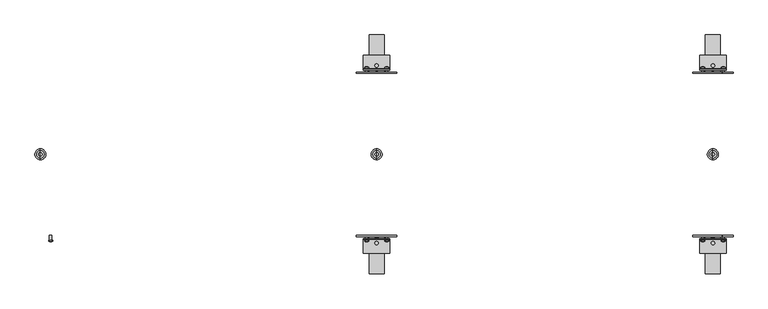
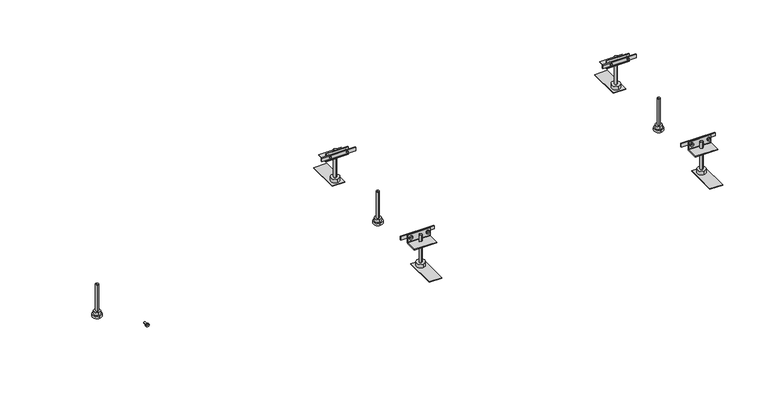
"""IFC4 building model written with IfcOpenShell, lengths in millimetres: proxy geometry, Electrical_Installation_Hager_BKW-Trunking-System-With-Trunking-Bottom-For-Dry-Cleaned-Floors : Nominal Size 400  Length 2.4 m."""

from ifc_helpers import new_model, si_unit, point, frame, frame_2d, origin, place, context, project, spatial, polyline, circle_curve, ellipse_curve, trimmed, segment, composite_curve, outline, extrude, source, transform, mapped, element, save
from ifc_brep_helpers import plane_surface, cylinder_surface, revolved_surface, advanced_brep


def electrical_fixtures_a64f4c61(model_context):
    return source(origin(), model_context, "Body", "SolidModel", [
        advanced_brep(
        [(1600.0, 13.0, -85.5), (1600.0, -13.0, -85.5), (1600.0, 0.0, -85.5), (1600.0, 13.0, -79.5), (1600.0, -13.0, -79.5), (1600.0, 9.0, -79.5), (1600.0, -9.0, -79.5), (1600.0, 9.0, -70.5), (1600.0, -9.0, -70.5), (1600.0, 3.954744, -70.5), (1600.0, -3.954744, -70.5), (1600.0, 3.954744, 9.5), (1600.0, -3.954744, 9.5), (1600.0, 0.0, 9.5)],
        [
            (0, 1, circle_curve(frame((1600.0, 0.0, -85.5), z_axis=(0.0, 0.0, -1.0), x_axis=(0.0, -1.0, 0.0)), 13.0)),
            (1, 2),
            (2, 0),
            (1, 0, circle_curve(frame((1600.0, 0.0, -85.5), z_axis=(0.0, 0.0, -1.0), x_axis=(0.0, -1.0, 0.0)), 13.0)),
            (3, 4, circle_curve(frame((1600.0, 0.0, -79.5), z_axis=(0.0, 0.0, -1.0), x_axis=(0.0, -1.0, 0.0)), 13.0)),
            (4, 1),
            (0, 3),
            (4, 3, circle_curve(frame((1600.0, 0.0, -79.5), z_axis=(0.0, 0.0, -1.0), x_axis=(0.0, -1.0, 0.0)), 13.0)),
            (5, 6, circle_curve(frame((1600.0, 0.0, -79.5), z_axis=(0.0, 0.0, -1.0), x_axis=(0.0, -1.0, 0.0)), 9.0)),
            (6, 4),
            (3, 5),
            (6, 5, circle_curve(frame((1600.0, 0.0, -79.5), z_axis=(0.0, 0.0, -1.0), x_axis=(0.0, -1.0, 0.0)), 9.0)),
            (7, 8, circle_curve(frame((1600.0, 0.0, -70.5), z_axis=(0.0, 0.0, -1.0), x_axis=(0.0, -1.0, 0.0)), 9.0)),
            (8, 6),
            (5, 7),
            (8, 7, circle_curve(frame((1600.0, 0.0, -70.5), z_axis=(0.0, 0.0, -1.0), x_axis=(0.0, -1.0, 0.0)), 9.0)),
            (9, 10, circle_curve(frame((1600.0, 0.0, -70.5), z_axis=(0.0, 0.0, -1.0), x_axis=(0.0, -1.0, 0.0)), 3.954744)),
            (10, 8),
            (7, 9),
            (10, 9, circle_curve(frame((1600.0, 0.0, -70.5), z_axis=(0.0, 0.0, -1.0), x_axis=(0.0, -1.0, 0.0)), 3.954744)),
            (11, 12, circle_curve(frame((1600.0, 0.0, 9.5), z_axis=(0.0, 0.0, -1.0), x_axis=(0.0, -1.0, 0.0)), 3.954744)),
            (12, 10),
            (9, 11),
            (12, 11, circle_curve(frame((1600.0, 0.0, 9.5), z_axis=(0.0, 0.0, -1.0), x_axis=(0.0, -1.0, 0.0)), 3.954744)),
            (13, 12),
            (11, 13),
        ],
        [
            plane_surface(frame((1600.0, 0.0, -85.5), z_axis=(0.0, 0.0, -1.0), x_axis=(0.0, -1.0, 0.0))),
            cylinder_surface(frame((1600.0, 0.0, 7.0), z_axis=(0.0, 0.0, 1.0), x_axis=(0.0, -1.0, 0.0)), 13.0),
            plane_surface(frame((1600.0, 0.0, -79.5), z_axis=(0.0, 0.0, 1.0), x_axis=(0.0, -1.0, 0.0))),
            cylinder_surface(frame((1600.0, 0.0, 7.0), z_axis=(0.0, 0.0, 1.0), x_axis=(0.0, -1.0, 0.0)), 9.0),
            plane_surface(frame((1600.0, 0.0, -70.5), z_axis=(0.0, 0.0, 1.0), x_axis=(0.0, -1.0, 0.0))),
            cylinder_surface(frame((1600.0, 0.0, 7.0), z_axis=(0.0, 0.0, 1.0), x_axis=(0.0, -1.0, 0.0)), 3.954744),
            plane_surface(frame((1600.0, 0.0, 9.5), z_axis=(0.0, 0.0, 1.0), x_axis=(0.0, -1.0, 0.0))),
        ],
        [
            (0, [[1, 2, 3]]),
            (0, [[4, -3, -2]]),
            (1, [[5, 6, -1, 7]]),
            (1, [[8, -7, -4, -6]]),
            (2, [[9, 10, -5, 11]]),
            (2, [[12, -11, -8, -10]]),
            (3, [[13, 14, -9, 15]]),
            (3, [[16, -15, -12, -14]]),
            (4, [[17, 18, -13, 19]]),
            (4, [[20, -19, -16, -18]]),
            (5, [[21, 22, -17, 23]]),
            (5, [[24, -23, -20, -22]]),
            (6, [[25, -21, 26]]),
            (6, [[-26, -24, -25]]),
        ],
    ),
        advanced_brep(
        [(1629.0575247, -206.6418922, 2.5), (1619.4769168, -206.6418922, 2.5), (1619.4769168, -204.7, 2.5), (1629.0575247, -204.7, 2.5), (1621.7042517, -204.7, 2.5), (1626.8301898, -204.7, 2.5), (1621.7042517, -192.7, 2.5), (1626.8301898, -192.7, 2.5), (1624.2672208, -192.7, 2.5), (1624.2672208, -208.3479209, 2.5)],
        [
            (0, 1, circle_curve(frame((1624.2672208, -206.6418922, 2.5), z_axis=(0.0, 1.0, 0.0), x_axis=(-1.0, 0.0, 0.0)), 4.790304)),
            (1, 2),
            (2, 3, circle_curve(frame((1624.2672208, -204.7, 2.5), z_axis=(0.0, -1.0, 0.0), x_axis=(-1.0, 0.0, 0.0)), 4.790304)),
            (3, 0),
            (1, 0, circle_curve(frame((1624.2672208, -206.6418922, 2.5), z_axis=(0.0, 1.0, 0.0), x_axis=(-1.0, 0.0, 0.0)), 4.790304)),
            (3, 2, circle_curve(frame((1624.2672208, -204.7, 2.5), z_axis=(0.0, -1.0, 0.0), x_axis=(-1.0, 0.0, 0.0)), 4.790304)),
            (2, 4),
            (4, 5, circle_curve(frame((1624.2672208, -204.7, 2.5), z_axis=(0.0, -1.0, 0.0), x_axis=(-1.0, 0.0, 0.0)), 2.562969)),
            (5, 3),
            (5, 4, circle_curve(frame((1624.2672208, -204.7, 2.5), z_axis=(0.0, -1.0, 0.0), x_axis=(-1.0, 0.0, 0.0)), 2.562969)),
            (4, 6),
            (6, 7, circle_curve(frame((1624.2672208, -192.7, 2.5), z_axis=(0.0, -1.0, 0.0), x_axis=(-1.0, 0.0, 0.0)), 2.562969)),
            (7, 5),
            (7, 6, circle_curve(frame((1624.2672208, -192.7, 2.5), z_axis=(0.0, -1.0, 0.0), x_axis=(-1.0, 0.0, 0.0)), 2.562969)),
            (6, 8),
            (8, 7),
            (9, 1, circle_curve(frame((1624.2353142, -200.8592246, 2.5), z_axis=(0.0, 0.0, -1.0), x_axis=(-1.0, 0.0, 0.0)), 7.4887643)),
            (0, 9, circle_curve(frame((1624.2991274, -200.8592246, 2.5), z_axis=(0.0, 0.0, -1.0), x_axis=(1.0, 0.0, 0.0)), 7.4887643)),
        ],
        [
            cylinder_surface(frame((1624.2672208, -204.2950786, 2.5), z_axis=(0.0, -1.0, 0.0), x_axis=(-1.0, 0.0, 0.0)), 4.790304),
            plane_surface(frame((1624.2672208, -204.7, 2.5), z_axis=(0.0, 1.0, 0.0), x_axis=(-1.0, 0.0, 0.0))),
            cylinder_surface(frame((1624.2672208, -204.2950786, 2.5), z_axis=(0.0, -1.0, 0.0), x_axis=(-1.0, 0.0, 0.0)), 2.562969),
            plane_surface(frame((1624.2672208, -192.7, 2.5), z_axis=(0.0, 1.0, 0.0), x_axis=(-1.0, 0.0, 0.0))),
            revolved_surface(trimmed(ellipse_curve(frame((1624.2353142, -200.8592246, 2.5), z_axis=(0.0, 0.0, 1.0), x_axis=(-1.0, 0.0, 0.0)), 7.4887643, 7.4887643), [point((1619.4769168, -206.6418922, 2.5))], [point((1624.2672208, -208.3479209, 2.5))], True, "CARTESIAN"), (1624.2672208, -204.2950786, 2.5), (0.0, -1.0, 0.0)),
        ],
        [
            (0, [[1, 2, 3, 4]]),
            (0, [[5, -4, 6, -2]]),
            (1, [[-3, 7, 8, 9]]),
            (1, [[-6, -9, 10, -7]]),
            (2, [[-8, 11, 12, 13]]),
            (2, [[-10, -13, 14, -11]]),
            (3, [[-12, 15, 16]]),
            (3, [[-14, -16, -15]]),
            (4, [[17, -1, 18]]),
            (4, [[-18, -5, -17]]),
        ],
    ),
        advanced_brep(
        [(1580.790304, -206.6418922, 2.5), (1571.209696, -206.6418922, 2.5), (1571.209696, -204.7, 2.5), (1580.790304, -204.7, 2.5), (1573.437031, -204.7, 2.5), (1578.562969, -204.7, 2.5), (1573.437031, -192.7, 2.5), (1578.562969, -192.7, 2.5), (1576.0, -192.7, 2.5), (1576.0, -208.3479209, 2.5)],
        [
            (0, 1, circle_curve(frame((1576.0, -206.6418922, 2.5), z_axis=(0.0, 1.0, 0.0), x_axis=(-1.0, 0.0, 0.0)), 4.790304)),
            (1, 2),
            (2, 3, circle_curve(frame((1576.0, -204.7, 2.5), z_axis=(0.0, -1.0, 0.0), x_axis=(-1.0, 0.0, 0.0)), 4.790304)),
            (3, 0),
            (1, 0, circle_curve(frame((1576.0, -206.6418922, 2.5), z_axis=(0.0, 1.0, 0.0), x_axis=(-1.0, 0.0, 0.0)), 4.790304)),
            (3, 2, circle_curve(frame((1576.0, -204.7, 2.5), z_axis=(0.0, -1.0, 0.0), x_axis=(-1.0, 0.0, 0.0)), 4.790304)),
            (2, 4),
            (4, 5, circle_curve(frame((1576.0, -204.7, 2.5), z_axis=(0.0, -1.0, 0.0), x_axis=(-1.0, 0.0, 0.0)), 2.562969)),
            (5, 3),
            (5, 4, circle_curve(frame((1576.0, -204.7, 2.5), z_axis=(0.0, -1.0, 0.0), x_axis=(-1.0, 0.0, 0.0)), 2.562969)),
            (4, 6),
            (6, 7, circle_curve(frame((1576.0, -192.7, 2.5), z_axis=(0.0, -1.0, 0.0), x_axis=(-1.0, 0.0, 0.0)), 2.562969)),
            (7, 5),
            (7, 6, circle_curve(frame((1576.0, -192.7, 2.5), z_axis=(0.0, -1.0, 0.0), x_axis=(-1.0, 0.0, 0.0)), 2.562969)),
            (6, 8),
            (8, 7),
            (9, 1, circle_curve(frame((1575.9680934, -200.8592246, 2.5), z_axis=(0.0, 0.0, -1.0), x_axis=(-1.0, 0.0, 0.0)), 7.4887643)),
            (0, 9, circle_curve(frame((1576.0319066, -200.8592246, 2.5), z_axis=(0.0, 0.0, -1.0), x_axis=(1.0, 0.0, 0.0)), 7.4887643)),
        ],
        [
            cylinder_surface(frame((1576.0, -204.2950786, 2.5), z_axis=(0.0, -1.0, 0.0), x_axis=(-1.0, 0.0, 0.0)), 4.790304),
            plane_surface(frame((1576.0, -204.7, 2.5), z_axis=(0.0, 1.0, 0.0), x_axis=(-1.0, 0.0, 0.0))),
            cylinder_surface(frame((1576.0, -204.2950786, 2.5), z_axis=(0.0, -1.0, 0.0), x_axis=(-1.0, 0.0, 0.0)), 2.562969),
            plane_surface(frame((1576.0, -192.7, 2.5), z_axis=(0.0, 1.0, 0.0), x_axis=(-1.0, 0.0, 0.0))),
            revolved_surface(trimmed(ellipse_curve(frame((1575.9680934, -200.8592246, 2.5), z_axis=(0.0, 0.0, 1.0), x_axis=(-1.0, 0.0, 0.0)), 7.4887643, 7.4887643), [point((1571.209696, -206.6418922, 2.5))], [point((1576.0, -208.3479209, 2.5))], True, "CARTESIAN"), (1576.0, -204.2950786, 2.5), (0.0, -1.0, 0.0)),
        ],
        [
            (0, [[1, 2, 3, 4]]),
            (0, [[5, -4, 6, -2]]),
            (1, [[-3, 7, 8, 9]]),
            (1, [[-6, -9, 10, -7]]),
            (2, [[-8, 11, 12, 13]]),
            (2, [[-10, -13, 14, -11]]),
            (3, [[-12, 15, 16]]),
            (3, [[-14, -16, -15]]),
            (4, [[17, -1, 18]]),
            (4, [[-18, -5, -17]]),
        ],
    ),
        advanced_brep(
        [(1629.0575247, 204.7, 2.5), (1619.4769168, 204.7, 2.5), (1619.4769168, 206.6418922, 2.5), (1629.0575247, 206.6418922, 2.5), (1626.8301898, 204.7, 2.5), (1621.7042517, 204.7, 2.5), (1626.8301898, 192.7, 2.5), (1621.7042517, 192.7, 2.5), (1624.2672208, 192.7, 2.5), (1624.2672208, 208.3479209, 2.5)],
        [
            (0, 1, circle_curve(frame((1624.2672208, 204.7, 2.5), z_axis=(0.0, 1.0, 0.0), x_axis=(-1.0, 0.0, 0.0)), 4.790304)),
            (1, 2),
            (2, 3, circle_curve(frame((1624.2672208, 206.6418922, 2.5), z_axis=(0.0, -1.0, 0.0), x_axis=(-1.0, 0.0, 0.0)), 4.790304)),
            (3, 0),
            (1, 0, circle_curve(frame((1624.2672208, 204.7, 2.5), z_axis=(0.0, 1.0, 0.0), x_axis=(-1.0, 0.0, 0.0)), 4.790304)),
            (3, 2, circle_curve(frame((1624.2672208, 206.6418922, 2.5), z_axis=(0.0, -1.0, 0.0), x_axis=(-1.0, 0.0, 0.0)), 4.790304)),
            (4, 5, circle_curve(frame((1624.2672208, 204.7, 2.5), z_axis=(0.0, 1.0, 0.0), x_axis=(-1.0, 0.0, 0.0)), 2.562969)),
            (5, 1),
            (0, 4),
            (5, 4, circle_curve(frame((1624.2672208, 204.7, 2.5), z_axis=(0.0, 1.0, 0.0), x_axis=(-1.0, 0.0, 0.0)), 2.562969)),
            (6, 7, circle_curve(frame((1624.2672208, 192.7, 2.5), z_axis=(0.0, 1.0, 0.0), x_axis=(-1.0, 0.0, 0.0)), 2.562969)),
            (7, 5),
            (4, 6),
            (7, 6, circle_curve(frame((1624.2672208, 192.7, 2.5), z_axis=(0.0, 1.0, 0.0), x_axis=(-1.0, 0.0, 0.0)), 2.562969)),
            (8, 7),
            (6, 8),
            (2, 9, circle_curve(frame((1624.2353142, 200.8592246, 2.5), z_axis=(0.0, 0.0, -1.0), x_axis=(-1.0, 0.0, 0.0)), 7.4887643)),
            (9, 3, circle_curve(frame((1624.2991274, 200.8592246, 2.5), z_axis=(0.0, 0.0, -1.0), x_axis=(1.0, 0.0, 0.0)), 7.4887643)),
        ],
        [
            cylinder_surface(frame((1624.2672208, 204.2950786, 2.5), z_axis=(0.0, -1.0, 0.0), x_axis=(-1.0, 0.0, 0.0)), 4.790304),
            plane_surface(frame((1624.2672208, 204.7, 2.5), z_axis=(0.0, -1.0, 0.0), x_axis=(-1.0, 0.0, 0.0))),
            cylinder_surface(frame((1624.2672208, 204.2950786, 2.5), z_axis=(0.0, -1.0, 0.0), x_axis=(-1.0, 0.0, 0.0)), 2.562969),
            plane_surface(frame((1624.2672208, 192.7, 2.5), z_axis=(0.0, -1.0, 0.0), x_axis=(-1.0, 0.0, 0.0))),
            revolved_surface(trimmed(ellipse_curve(frame((1624.2353142, 200.8592246, 2.5), z_axis=(0.0, 0.0, 1.0), x_axis=(-1.0, 0.0, 0.0)), 7.4887643, 7.4887643), [point((1624.2672208, 208.3479209, 2.5))], [point((1619.4769168, 206.6418922, 2.5))], True, "CARTESIAN"), (1624.2672208, 204.2950786, 2.5), (0.0, -1.0, 0.0)),
        ],
        [
            (0, [[1, 2, 3, 4]]),
            (0, [[5, -4, 6, -2]]),
            (1, [[7, 8, -1, 9]]),
            (1, [[10, -9, -5, -8]]),
            (2, [[11, 12, -7, 13]]),
            (2, [[14, -13, -10, -12]]),
            (3, [[15, -11, 16]]),
            (3, [[-16, -14, -15]]),
            (4, [[-3, 17, 18]]),
            (4, [[-6, -18, -17]]),
        ],
    ),
        advanced_brep(
        [(1580.790304, 204.7, 2.5), (1571.209696, 204.7, 2.5), (1571.209696, 206.6418922, 2.5), (1580.790304, 206.6418922, 2.5), (1578.562969, 204.7, 2.5), (1573.437031, 204.7, 2.5), (1578.562969, 192.7, 2.5), (1573.437031, 192.7, 2.5), (1576.0, 192.7, 2.5), (1576.0, 208.3479209, 2.5)],
        [
            (0, 1, circle_curve(frame((1576.0, 204.7, 2.5), z_axis=(0.0, 1.0, 0.0), x_axis=(-1.0, 0.0, 0.0)), 4.790304)),
            (1, 2),
            (2, 3, circle_curve(frame((1576.0, 206.6418922, 2.5), z_axis=(0.0, -1.0, 0.0), x_axis=(-1.0, 0.0, 0.0)), 4.790304)),
            (3, 0),
            (1, 0, circle_curve(frame((1576.0, 204.7, 2.5), z_axis=(0.0, 1.0, 0.0), x_axis=(-1.0, 0.0, 0.0)), 4.790304)),
            (3, 2, circle_curve(frame((1576.0, 206.6418922, 2.5), z_axis=(0.0, -1.0, 0.0), x_axis=(-1.0, 0.0, 0.0)), 4.790304)),
            (4, 5, circle_curve(frame((1576.0, 204.7, 2.5), z_axis=(0.0, 1.0, 0.0), x_axis=(-1.0, 0.0, 0.0)), 2.562969)),
            (5, 1),
            (0, 4),
            (5, 4, circle_curve(frame((1576.0, 204.7, 2.5), z_axis=(0.0, 1.0, 0.0), x_axis=(-1.0, 0.0, 0.0)), 2.562969)),
            (6, 7, circle_curve(frame((1576.0, 192.7, 2.5), z_axis=(0.0, 1.0, 0.0), x_axis=(-1.0, 0.0, 0.0)), 2.562969)),
            (7, 5),
            (4, 6),
            (7, 6, circle_curve(frame((1576.0, 192.7, 2.5), z_axis=(0.0, 1.0, 0.0), x_axis=(-1.0, 0.0, 0.0)), 2.562969)),
            (8, 7),
            (6, 8),
            (2, 9, circle_curve(frame((1575.9680934, 200.8592246, 2.5), z_axis=(0.0, 0.0, -1.0), x_axis=(-1.0, 0.0, 0.0)), 7.4887643)),
            (9, 3, circle_curve(frame((1576.0319066, 200.8592246, 2.5), z_axis=(0.0, 0.0, -1.0), x_axis=(1.0, 0.0, 0.0)), 7.4887643)),
        ],
        [
            cylinder_surface(frame((1576.0, 204.2950786, 2.5), z_axis=(0.0, -1.0, 0.0), x_axis=(-1.0, 0.0, 0.0)), 4.790304),
            plane_surface(frame((1576.0, 204.7, 2.5), z_axis=(0.0, -1.0, 0.0), x_axis=(-1.0, 0.0, 0.0))),
            cylinder_surface(frame((1576.0, 204.2950786, 2.5), z_axis=(0.0, -1.0, 0.0), x_axis=(-1.0, 0.0, 0.0)), 2.562969),
            plane_surface(frame((1576.0, 192.7, 2.5), z_axis=(0.0, -1.0, 0.0), x_axis=(-1.0, 0.0, 0.0))),
            revolved_surface(trimmed(ellipse_curve(frame((1575.9680934, 200.8592246, 2.5), z_axis=(0.0, 0.0, 1.0), x_axis=(-1.0, 0.0, 0.0)), 7.4887643, 7.4887643), [point((1576.0, 208.3479209, 2.5))], [point((1571.209696, 206.6418922, 2.5))], True, "CARTESIAN"), (1576.0, 204.2950786, 2.5), (0.0, -1.0, 0.0)),
        ],
        [
            (0, [[1, 2, 3, 4]]),
            (0, [[5, -4, 6, -2]]),
            (1, [[7, 8, -1, 9]]),
            (1, [[10, -9, -5, -8]]),
            (2, [[11, 12, -7, 13]]),
            (2, [[14, -13, -10, -12]]),
            (3, [[15, -11, 16]]),
            (3, [[-16, -14, -15]]),
            (4, [[-3, 17, 18]]),
            (4, [[-6, -18, -17]]),
        ],
    ),
        extrude(outline(polyline([(1552.0, 192.7), (1552.0, 195.7), (1648.0, 195.7), (1648.0, 192.7), (1552.0, 192.7)])), frame((0.0, 0.0, -2.5), z_axis=(0.0, 0.0, 1.0), x_axis=(1.0, 0.0, 0.0)), (0.0, 0.0, 1.0), 10.0),
        extrude(outline(polyline([(1552.0, -195.7), (1552.0, -192.7), (1648.0, -192.7), (1648.0, -195.7), (1552.0, -195.7)])), frame((0.0, 0.0, -2.5), z_axis=(0.0, 0.0, 1.0), x_axis=(1.0, 0.0, 0.0)), (0.0, 0.0, 1.0), 10.0),
        extrude(outline(composite_curve([segment(polyline([(200.6, 10.9), (202.6, 10.9), (202.6, -11.1088822)]), True, "CONTINUOUS"), segment(trimmed(circle_curve(frame_2d((203.5911178, -11.1088822)), 0.9911178), [point((202.6, -11.1088822))], [point((203.5911178, -12.1))], True, "CARTESIAN"), True, "CONTINUOUS"), segment(polyline([(203.5911178, -12.1), (235.6, -12.1), (235.6, -14.1), (203.6002521, -14.1)]), True, "CONTINUOUS"), segment(trimmed(circle_curve(frame_2d((203.6002521, -11.0997479)), 3.0002521), [point((203.6002521, -14.1))], [point((200.6, -11.0997479))], False, "CARTESIAN"), True, "CONTINUOUS"), segment(polyline([(200.6, -11.0997479), (200.6, 10.9)]), True, "CONTINUOUS")], self_intersect=False)), frame((1568.3, 0.0, 0.0), z_axis=(1.0, 0.0, 0.0), x_axis=(0.0, 1.0, 0.0)), (0.0, 0.0, 1.0), 63.4),
        extrude(outline(composite_curve([segment(polyline([(-200.6, 10.9), (-200.6, -11.0997479)]), True, "CONTINUOUS"), segment(trimmed(circle_curve(frame_2d((-203.6002521, -11.0997479)), 3.0002521), [point((-200.6, -11.0997479))], [point((-203.6002521, -14.1))], False, "CARTESIAN"), True, "CONTINUOUS"), segment(polyline([(-203.6002521, -14.1), (-235.6, -14.1), (-235.6, -12.1), (-203.5911178, -12.1)]), True, "CONTINUOUS"), segment(trimmed(circle_curve(frame_2d((-203.5911178, -11.1088822)), 0.9911178), [point((-203.5911178, -12.1))], [point((-202.6, -11.1088822))], True, "CARTESIAN"), True, "CONTINUOUS"), segment(polyline([(-202.6, -11.1088822), (-202.6, 10.9), (-200.6, 10.9)]), True, "CONTINUOUS")], self_intersect=False)), frame((1568.3, 0.0, 0.0), z_axis=(1.0, 0.0, 0.0), x_axis=(0.0, 1.0, 0.0)), (0.0, 0.0, 1.0), 63.4),
        extrude(outline(composite_curve([segment(trimmed(circle_curve(frame_2d((1600.0, 211.1712378)), 3.9923162), [point((1600.0, 215.163554))], [point((1600.0, 207.1789216))], False, "CARTESIAN"), True, "CONTINUOUS"), segment(trimmed(circle_curve(frame_2d((1600.0, 211.1712378)), 3.9923162), [point((1600.0, 207.1789216))], [point((1600.0, 215.163554))], False, "CARTESIAN"), True, "CONTINUOUS")], self_intersect=False)), frame((0.0, 0.0, -74.8), z_axis=(0.0, 0.0, 1.0), x_axis=(1.0, 0.0, 0.0)), (0.0, 0.0, 1.0), 81.8),
        extrude(outline(composite_curve([segment(trimmed(circle_curve(frame_2d((1600.0, -211.0787011)), 3.991847), [point((1600.0, -207.0868541))], [point((1600.0, -215.0705482))], False, "CARTESIAN"), True, "CONTINUOUS"), segment(trimmed(circle_curve(frame_2d((1600.0, -211.0787011)), 3.991847), [point((1600.0, -215.0705482))], [point((1600.0, -207.0868541))], False, "CARTESIAN"), True, "CONTINUOUS")], self_intersect=False)), frame((0.0, 0.0, -74.8), z_axis=(0.0, 0.0, 1.0), x_axis=(1.0, 0.0, 0.0)), (0.0, 0.0, 1.0), 81.8),
        extrude(outline(composite_curve([segment(trimmed(circle_curve(frame_2d((1600.0, 211.1652527)), 12.0), [point((1600.0, 223.1652527))], [point((1600.0, 199.1652527))], False, "CARTESIAN"), True, "CONTINUOUS"), segment(trimmed(circle_curve(frame_2d((1600.0, 211.1652527)), 12.0), [point((1600.0, 199.1652527))], [point((1600.0, 223.1652527))], False, "CARTESIAN"), True, "CONTINUOUS")], self_intersect=False)), frame((0.0, 0.0, -85.5), z_axis=(0.0, 0.0, 1.0), x_axis=(1.0, 0.0, 0.0)), (0.0, 0.0, 1.0), 10.7),
        extrude(outline(composite_curve([segment(trimmed(circle_curve(frame_2d((1600.0, -211.112037)), 12.0), [point((1600.0, -199.112037))], [point((1600.0, -223.112037))], False, "CARTESIAN"), True, "CONTINUOUS"), segment(trimmed(circle_curve(frame_2d((1600.0, -211.112037)), 12.0), [point((1600.0, -223.112037))], [point((1600.0, -199.112037))], False, "CARTESIAN"), True, "CONTINUOUS")], self_intersect=False)), frame((0.0, 0.0, -85.5), z_axis=(0.0, 0.0, 1.0), x_axis=(1.0, 0.0, 0.0)), (0.0, 0.0, 1.0), 10.7),
        extrude(outline(polyline([(1618.0, 194.1), (1582.0, 194.1), (1582.0, 284.1), (1618.0, 284.1), (1618.0, 194.1)])), frame((0.0, 0.0, -87.0), z_axis=(0.0, 0.0, 1.0), x_axis=(1.0, 0.0, 0.0)), (0.0, 0.0, 1.0), 1.5),
        extrude(outline(polyline([(1618.0, -284.1), (1582.0, -284.1), (1582.0, -194.1), (1618.0, -194.1), (1618.0, -284.1)])), frame((0.0, 0.0, -87.0), z_axis=(0.0, 0.0, 1.0), x_axis=(1.0, 0.0, 0.0)), (0.0, 0.0, 1.0), 1.5),
        advanced_brep(
        [(800.0, 13.0, -85.5), (800.0, -13.0, -85.5), (800.0, 0.0, -85.5), (800.0, 13.0, -79.5), (800.0, -13.0, -79.5), (800.0, 9.0, -79.5), (800.0, -9.0, -79.5), (800.0, 9.0, -70.5), (800.0, -9.0, -70.5), (800.0, 3.954744, -70.5), (800.0, -3.954744, -70.5), (800.0, 3.954744, 9.5), (800.0, -3.954744, 9.5), (800.0, 0.0, 9.5)],
        [
            (0, 1, circle_curve(frame((800.0, 0.0, -85.5), z_axis=(0.0, 0.0, -1.0), x_axis=(0.0, -1.0, 0.0)), 13.0)),
            (1, 2),
            (2, 0),
            (1, 0, circle_curve(frame((800.0, 0.0, -85.5), z_axis=(0.0, 0.0, -1.0), x_axis=(0.0, -1.0, 0.0)), 13.0)),
            (3, 4, circle_curve(frame((800.0, 0.0, -79.5), z_axis=(0.0, 0.0, -1.0), x_axis=(0.0, -1.0, 0.0)), 13.0)),
            (4, 1),
            (0, 3),
            (4, 3, circle_curve(frame((800.0, 0.0, -79.5), z_axis=(0.0, 0.0, -1.0), x_axis=(0.0, -1.0, 0.0)), 13.0)),
            (5, 6, circle_curve(frame((800.0, 0.0, -79.5), z_axis=(0.0, 0.0, -1.0), x_axis=(0.0, -1.0, 0.0)), 9.0)),
            (6, 4),
            (3, 5),
            (6, 5, circle_curve(frame((800.0, 0.0, -79.5), z_axis=(0.0, 0.0, -1.0), x_axis=(0.0, -1.0, 0.0)), 9.0)),
            (7, 8, circle_curve(frame((800.0, 0.0, -70.5), z_axis=(0.0, 0.0, -1.0), x_axis=(0.0, -1.0, 0.0)), 9.0)),
            (8, 6),
            (5, 7),
            (8, 7, circle_curve(frame((800.0, 0.0, -70.5), z_axis=(0.0, 0.0, -1.0), x_axis=(0.0, -1.0, 0.0)), 9.0)),
            (9, 10, circle_curve(frame((800.0, 0.0, -70.5), z_axis=(0.0, 0.0, -1.0), x_axis=(0.0, -1.0, 0.0)), 3.954744)),
            (10, 8),
            (7, 9),
            (10, 9, circle_curve(frame((800.0, 0.0, -70.5), z_axis=(0.0, 0.0, -1.0), x_axis=(0.0, -1.0, 0.0)), 3.954744)),
            (11, 12, circle_curve(frame((800.0, 0.0, 9.5), z_axis=(0.0, 0.0, -1.0), x_axis=(0.0, -1.0, 0.0)), 3.954744)),
            (12, 10),
            (9, 11),
            (12, 11, circle_curve(frame((800.0, 0.0, 9.5), z_axis=(0.0, 0.0, -1.0), x_axis=(0.0, -1.0, 0.0)), 3.954744)),
            (13, 12),
            (11, 13),
        ],
        [
            plane_surface(frame((800.0, 0.0, -85.5), z_axis=(0.0, 0.0, -1.0), x_axis=(0.0, -1.0, 0.0))),
            cylinder_surface(frame((800.0, 0.0, 7.0), z_axis=(0.0, 0.0, 1.0), x_axis=(0.0, -1.0, 0.0)), 13.0),
            plane_surface(frame((800.0, 0.0, -79.5), z_axis=(0.0, 0.0, 1.0), x_axis=(0.0, -1.0, 0.0))),
            cylinder_surface(frame((800.0, 0.0, 7.0), z_axis=(0.0, 0.0, 1.0), x_axis=(0.0, -1.0, 0.0)), 9.0),
            plane_surface(frame((800.0, 0.0, -70.5), z_axis=(0.0, 0.0, 1.0), x_axis=(0.0, -1.0, 0.0))),
            cylinder_surface(frame((800.0, 0.0, 7.0), z_axis=(0.0, 0.0, 1.0), x_axis=(0.0, -1.0, 0.0)), 3.954744),
            plane_surface(frame((800.0, 0.0, 9.5), z_axis=(0.0, 0.0, 1.0), x_axis=(0.0, -1.0, 0.0))),
        ],
        [
            (0, [[1, 2, 3]]),
            (0, [[4, -3, -2]]),
            (1, [[5, 6, -1, 7]]),
            (1, [[8, -7, -4, -6]]),
            (2, [[9, 10, -5, 11]]),
            (2, [[12, -11, -8, -10]]),
            (3, [[13, 14, -9, 15]]),
            (3, [[16, -15, -12, -14]]),
            (4, [[17, 18, -13, 19]]),
            (4, [[20, -19, -16, -18]]),
            (5, [[21, 22, -17, 23]]),
            (5, [[24, -23, -20, -22]]),
            (6, [[25, -21, 26]]),
            (6, [[-26, -24, -25]]),
        ],
    ),
        advanced_brep(
        [(829.0575247, -206.6418922, 2.5), (819.4769168, -206.6418922, 2.5), (819.4769168, -204.7, 2.5), (829.0575247, -204.7, 2.5), (821.7042517, -204.7, 2.5), (826.8301898, -204.7, 2.5), (821.7042517, -192.7, 2.5), (826.8301898, -192.7, 2.5), (824.2672208, -192.7, 2.5), (824.2672208, -208.3479209, 2.5)],
        [
            (0, 1, circle_curve(frame((824.2672208, -206.6418922, 2.5), z_axis=(0.0, 1.0, 0.0), x_axis=(-1.0, 0.0, 0.0)), 4.790304)),
            (1, 2),
            (2, 3, circle_curve(frame((824.2672208, -204.7, 2.5), z_axis=(0.0, -1.0, 0.0), x_axis=(-1.0, 0.0, 0.0)), 4.790304)),
            (3, 0),
            (1, 0, circle_curve(frame((824.2672208, -206.6418922, 2.5), z_axis=(0.0, 1.0, 0.0), x_axis=(-1.0, 0.0, 0.0)), 4.790304)),
            (3, 2, circle_curve(frame((824.2672208, -204.7, 2.5), z_axis=(0.0, -1.0, 0.0), x_axis=(-1.0, 0.0, 0.0)), 4.790304)),
            (2, 4),
            (4, 5, circle_curve(frame((824.2672208, -204.7, 2.5), z_axis=(0.0, -1.0, 0.0), x_axis=(-1.0, 0.0, 0.0)), 2.562969)),
            (5, 3),
            (5, 4, circle_curve(frame((824.2672208, -204.7, 2.5), z_axis=(0.0, -1.0, 0.0), x_axis=(-1.0, 0.0, 0.0)), 2.562969)),
            (4, 6),
            (6, 7, circle_curve(frame((824.2672208, -192.7, 2.5), z_axis=(0.0, -1.0, 0.0), x_axis=(-1.0, 0.0, 0.0)), 2.562969)),
            (7, 5),
            (7, 6, circle_curve(frame((824.2672208, -192.7, 2.5), z_axis=(0.0, -1.0, 0.0), x_axis=(-1.0, 0.0, 0.0)), 2.562969)),
            (6, 8),
            (8, 7),
            (9, 1, circle_curve(frame((824.2353142, -200.8592246, 2.5), z_axis=(0.0, 0.0, -1.0), x_axis=(-1.0, 0.0, 0.0)), 7.4887643)),
            (0, 9, circle_curve(frame((824.2991274, -200.8592246, 2.5), z_axis=(0.0, 0.0, -1.0), x_axis=(1.0, 0.0, 0.0)), 7.4887643)),
        ],
        [
            cylinder_surface(frame((824.2672208, -204.2950786, 2.5), z_axis=(0.0, -1.0, 0.0), x_axis=(-1.0, 0.0, 0.0)), 4.790304),
            plane_surface(frame((824.2672208, -204.7, 2.5), z_axis=(0.0, 1.0, 0.0), x_axis=(-1.0, 0.0, 0.0))),
            cylinder_surface(frame((824.2672208, -204.2950786, 2.5), z_axis=(0.0, -1.0, 0.0), x_axis=(-1.0, 0.0, 0.0)), 2.562969),
            plane_surface(frame((824.2672208, -192.7, 2.5), z_axis=(0.0, 1.0, 0.0), x_axis=(-1.0, 0.0, 0.0))),
            revolved_surface(trimmed(ellipse_curve(frame((824.2353142, -200.8592246, 2.5), z_axis=(0.0, 0.0, 1.0), x_axis=(-1.0, 0.0, 0.0)), 7.4887643, 7.4887643), [point((819.4769168, -206.6418922, 2.5))], [point((824.2672208, -208.3479209, 2.5))], True, "CARTESIAN"), (824.2672208, -204.2950786, 2.5), (0.0, -1.0, 0.0)),
        ],
        [
            (0, [[1, 2, 3, 4]]),
            (0, [[5, -4, 6, -2]]),
            (1, [[-3, 7, 8, 9]]),
            (1, [[-6, -9, 10, -7]]),
            (2, [[-8, 11, 12, 13]]),
            (2, [[-10, -13, 14, -11]]),
            (3, [[-12, 15, 16]]),
            (3, [[-14, -16, -15]]),
            (4, [[17, -1, 18]]),
            (4, [[-18, -5, -17]]),
        ],
    ),
        advanced_brep(
        [(780.790304, -206.6418922, 2.5), (771.209696, -206.6418922, 2.5), (771.209696, -204.7, 2.5), (780.790304, -204.7, 2.5), (773.437031, -204.7, 2.5), (778.562969, -204.7, 2.5), (773.437031, -192.7, 2.5), (778.562969, -192.7, 2.5), (776.0, -192.7, 2.5), (776.0, -208.3479209, 2.5)],
        [
            (0, 1, circle_curve(frame((776.0, -206.6418922, 2.5), z_axis=(0.0, 1.0, 0.0), x_axis=(-1.0, 0.0, 0.0)), 4.790304)),
            (1, 2),
            (2, 3, circle_curve(frame((776.0, -204.7, 2.5), z_axis=(0.0, -1.0, 0.0), x_axis=(-1.0, 0.0, 0.0)), 4.790304)),
            (3, 0),
            (1, 0, circle_curve(frame((776.0, -206.6418922, 2.5), z_axis=(0.0, 1.0, 0.0), x_axis=(-1.0, 0.0, 0.0)), 4.790304)),
            (3, 2, circle_curve(frame((776.0, -204.7, 2.5), z_axis=(0.0, -1.0, 0.0), x_axis=(-1.0, 0.0, 0.0)), 4.790304)),
            (2, 4),
            (4, 5, circle_curve(frame((776.0, -204.7, 2.5), z_axis=(0.0, -1.0, 0.0), x_axis=(-1.0, 0.0, 0.0)), 2.562969)),
            (5, 3),
            (5, 4, circle_curve(frame((776.0, -204.7, 2.5), z_axis=(0.0, -1.0, 0.0), x_axis=(-1.0, 0.0, 0.0)), 2.562969)),
            (4, 6),
            (6, 7, circle_curve(frame((776.0, -192.7, 2.5), z_axis=(0.0, -1.0, 0.0), x_axis=(-1.0, 0.0, 0.0)), 2.562969)),
            (7, 5),
            (7, 6, circle_curve(frame((776.0, -192.7, 2.5), z_axis=(0.0, -1.0, 0.0), x_axis=(-1.0, 0.0, 0.0)), 2.562969)),
            (6, 8),
            (8, 7),
            (9, 1, circle_curve(frame((775.9680934, -200.8592246, 2.5), z_axis=(0.0, 0.0, -1.0), x_axis=(-1.0, 0.0, 0.0)), 7.4887643)),
            (0, 9, circle_curve(frame((776.0319066, -200.8592246, 2.5), z_axis=(0.0, 0.0, -1.0), x_axis=(1.0, 0.0, 0.0)), 7.4887643)),
        ],
        [
            cylinder_surface(frame((776.0, -204.2950786, 2.5), z_axis=(0.0, -1.0, 0.0), x_axis=(-1.0, 0.0, 0.0)), 4.790304),
            plane_surface(frame((776.0, -204.7, 2.5), z_axis=(0.0, 1.0, 0.0), x_axis=(-1.0, 0.0, 0.0))),
            cylinder_surface(frame((776.0, -204.2950786, 2.5), z_axis=(0.0, -1.0, 0.0), x_axis=(-1.0, 0.0, 0.0)), 2.562969),
            plane_surface(frame((776.0, -192.7, 2.5), z_axis=(0.0, 1.0, 0.0), x_axis=(-1.0, 0.0, 0.0))),
            revolved_surface(trimmed(ellipse_curve(frame((775.9680934, -200.8592246, 2.5), z_axis=(0.0, 0.0, 1.0), x_axis=(-1.0, 0.0, 0.0)), 7.4887643, 7.4887643), [point((771.209696, -206.6418922, 2.5))], [point((776.0, -208.3479209, 2.5))], True, "CARTESIAN"), (776.0, -204.2950786, 2.5), (0.0, -1.0, 0.0)),
        ],
        [
            (0, [[1, 2, 3, 4]]),
            (0, [[5, -4, 6, -2]]),
            (1, [[-3, 7, 8, 9]]),
            (1, [[-6, -9, 10, -7]]),
            (2, [[-8, 11, 12, 13]]),
            (2, [[-10, -13, 14, -11]]),
            (3, [[-12, 15, 16]]),
            (3, [[-14, -16, -15]]),
            (4, [[17, -1, 18]]),
            (4, [[-18, -5, -17]]),
        ],
    ),
        advanced_brep(
        [(829.0575247, 204.7, 2.5), (819.4769168, 204.7, 2.5), (819.4769168, 206.6418922, 2.5), (829.0575247, 206.6418922, 2.5), (826.8301898, 204.7, 2.5), (821.7042517, 204.7, 2.5), (826.8301898, 192.7, 2.5), (821.7042517, 192.7, 2.5), (824.2672208, 192.7, 2.5), (824.2672208, 208.3479209, 2.5)],
        [
            (0, 1, circle_curve(frame((824.2672208, 204.7, 2.5), z_axis=(0.0, 1.0, 0.0), x_axis=(-1.0, 0.0, 0.0)), 4.790304)),
            (1, 2),
            (2, 3, circle_curve(frame((824.2672208, 206.6418922, 2.5), z_axis=(0.0, -1.0, 0.0), x_axis=(-1.0, 0.0, 0.0)), 4.790304)),
            (3, 0),
            (1, 0, circle_curve(frame((824.2672208, 204.7, 2.5), z_axis=(0.0, 1.0, 0.0), x_axis=(-1.0, 0.0, 0.0)), 4.790304)),
            (3, 2, circle_curve(frame((824.2672208, 206.6418922, 2.5), z_axis=(0.0, -1.0, 0.0), x_axis=(-1.0, 0.0, 0.0)), 4.790304)),
            (4, 5, circle_curve(frame((824.2672208, 204.7, 2.5), z_axis=(0.0, 1.0, 0.0), x_axis=(-1.0, 0.0, 0.0)), 2.562969)),
            (5, 1),
            (0, 4),
            (5, 4, circle_curve(frame((824.2672208, 204.7, 2.5), z_axis=(0.0, 1.0, 0.0), x_axis=(-1.0, 0.0, 0.0)), 2.562969)),
            (6, 7, circle_curve(frame((824.2672208, 192.7, 2.5), z_axis=(0.0, 1.0, 0.0), x_axis=(-1.0, 0.0, 0.0)), 2.562969)),
            (7, 5),
            (4, 6),
            (7, 6, circle_curve(frame((824.2672208, 192.7, 2.5), z_axis=(0.0, 1.0, 0.0), x_axis=(-1.0, 0.0, 0.0)), 2.562969)),
            (8, 7),
            (6, 8),
            (2, 9, circle_curve(frame((824.2353142, 200.8592246, 2.5), z_axis=(0.0, 0.0, -1.0), x_axis=(-1.0, 0.0, 0.0)), 7.4887643)),
            (9, 3, circle_curve(frame((824.2991274, 200.8592246, 2.5), z_axis=(0.0, 0.0, -1.0), x_axis=(1.0, 0.0, 0.0)), 7.4887643)),
        ],
        [
            cylinder_surface(frame((824.2672208, 204.2950786, 2.5), z_axis=(0.0, -1.0, 0.0), x_axis=(-1.0, 0.0, 0.0)), 4.790304),
            plane_surface(frame((824.2672208, 204.7, 2.5), z_axis=(0.0, -1.0, 0.0), x_axis=(-1.0, 0.0, 0.0))),
            cylinder_surface(frame((824.2672208, 204.2950786, 2.5), z_axis=(0.0, -1.0, 0.0), x_axis=(-1.0, 0.0, 0.0)), 2.562969),
            plane_surface(frame((824.2672208, 192.7, 2.5), z_axis=(0.0, -1.0, 0.0), x_axis=(-1.0, 0.0, 0.0))),
            revolved_surface(trimmed(ellipse_curve(frame((824.2353142, 200.8592246, 2.5), z_axis=(0.0, 0.0, 1.0), x_axis=(-1.0, 0.0, 0.0)), 7.4887643, 7.4887643), [point((824.2672208, 208.3479209, 2.5))], [point((819.4769168, 206.6418922, 2.5))], True, "CARTESIAN"), (824.2672208, 204.2950786, 2.5), (0.0, -1.0, 0.0)),
        ],
        [
            (0, [[1, 2, 3, 4]]),
            (0, [[5, -4, 6, -2]]),
            (1, [[7, 8, -1, 9]]),
            (1, [[10, -9, -5, -8]]),
            (2, [[11, 12, -7, 13]]),
            (2, [[14, -13, -10, -12]]),
            (3, [[15, -11, 16]]),
            (3, [[-16, -14, -15]]),
            (4, [[-3, 17, 18]]),
            (4, [[-6, -18, -17]]),
        ],
    ),
        advanced_brep(
        [(780.790304, 204.7, 2.5), (771.209696, 204.7, 2.5), (771.209696, 206.6418922, 2.5), (780.790304, 206.6418922, 2.5), (778.562969, 204.7, 2.5), (773.437031, 204.7, 2.5), (778.562969, 192.7, 2.5), (773.437031, 192.7, 2.5), (776.0, 192.7, 2.5), (776.0, 208.3479209, 2.5)],
        [
            (0, 1, circle_curve(frame((776.0, 204.7, 2.5), z_axis=(0.0, 1.0, 0.0), x_axis=(-1.0, 0.0, 0.0)), 4.790304)),
            (1, 2),
            (2, 3, circle_curve(frame((776.0, 206.6418922, 2.5), z_axis=(0.0, -1.0, 0.0), x_axis=(-1.0, 0.0, 0.0)), 4.790304)),
            (3, 0),
            (1, 0, circle_curve(frame((776.0, 204.7, 2.5), z_axis=(0.0, 1.0, 0.0), x_axis=(-1.0, 0.0, 0.0)), 4.790304)),
            (3, 2, circle_curve(frame((776.0, 206.6418922, 2.5), z_axis=(0.0, -1.0, 0.0), x_axis=(-1.0, 0.0, 0.0)), 4.790304)),
            (4, 5, circle_curve(frame((776.0, 204.7, 2.5), z_axis=(0.0, 1.0, 0.0), x_axis=(-1.0, 0.0, 0.0)), 2.562969)),
            (5, 1),
            (0, 4),
            (5, 4, circle_curve(frame((776.0, 204.7, 2.5), z_axis=(0.0, 1.0, 0.0), x_axis=(-1.0, 0.0, 0.0)), 2.562969)),
            (6, 7, circle_curve(frame((776.0, 192.7, 2.5), z_axis=(0.0, 1.0, 0.0), x_axis=(-1.0, 0.0, 0.0)), 2.562969)),
            (7, 5),
            (4, 6),
            (7, 6, circle_curve(frame((776.0, 192.7, 2.5), z_axis=(0.0, 1.0, 0.0), x_axis=(-1.0, 0.0, 0.0)), 2.562969)),
            (8, 7),
            (6, 8),
            (2, 9, circle_curve(frame((775.9680934, 200.8592246, 2.5), z_axis=(0.0, 0.0, -1.0), x_axis=(-1.0, 0.0, 0.0)), 7.4887643)),
            (9, 3, circle_curve(frame((776.0319066, 200.8592246, 2.5), z_axis=(0.0, 0.0, -1.0), x_axis=(1.0, 0.0, 0.0)), 7.4887643)),
        ],
        [
            cylinder_surface(frame((776.0, 204.2950786, 2.5), z_axis=(0.0, -1.0, 0.0), x_axis=(-1.0, 0.0, 0.0)), 4.790304),
            plane_surface(frame((776.0, 204.7, 2.5), z_axis=(0.0, -1.0, 0.0), x_axis=(-1.0, 0.0, 0.0))),
            cylinder_surface(frame((776.0, 204.2950786, 2.5), z_axis=(0.0, -1.0, 0.0), x_axis=(-1.0, 0.0, 0.0)), 2.562969),
            plane_surface(frame((776.0, 192.7, 2.5), z_axis=(0.0, -1.0, 0.0), x_axis=(-1.0, 0.0, 0.0))),
            revolved_surface(trimmed(ellipse_curve(frame((775.9680934, 200.8592246, 2.5), z_axis=(0.0, 0.0, 1.0), x_axis=(-1.0, 0.0, 0.0)), 7.4887643, 7.4887643), [point((776.0, 208.3479209, 2.5))], [point((771.209696, 206.6418922, 2.5))], True, "CARTESIAN"), (776.0, 204.2950786, 2.5), (0.0, -1.0, 0.0)),
        ],
        [
            (0, [[1, 2, 3, 4]]),
            (0, [[5, -4, 6, -2]]),
            (1, [[7, 8, -1, 9]]),
            (1, [[10, -9, -5, -8]]),
            (2, [[11, 12, -7, 13]]),
            (2, [[14, -13, -10, -12]]),
            (3, [[15, -11, 16]]),
            (3, [[-16, -14, -15]]),
            (4, [[-3, 17, 18]]),
            (4, [[-6, -18, -17]]),
        ],
    ),
        extrude(outline(polyline([(752.0, 192.7), (752.0, 195.7), (848.0, 195.7), (848.0, 192.7), (752.0, 192.7)])), frame((0.0, 0.0, -2.5), z_axis=(0.0, 0.0, 1.0), x_axis=(1.0, 0.0, 0.0)), (0.0, 0.0, 1.0), 10.0),
        extrude(outline(polyline([(752.0, -195.7), (752.0, -192.7), (848.0, -192.7), (848.0, -195.7), (752.0, -195.7)])), frame((0.0, 0.0, -2.5), z_axis=(0.0, 0.0, 1.0), x_axis=(1.0, 0.0, 0.0)), (0.0, 0.0, 1.0), 10.0),
        extrude(outline(composite_curve([segment(polyline([(200.6, 10.9), (202.6, 10.9), (202.6, -11.1088822)]), True, "CONTINUOUS"), segment(trimmed(circle_curve(frame_2d((203.5911178, -11.1088822)), 0.9911178), [point((202.6, -11.1088822))], [point((203.5911178, -12.1))], True, "CARTESIAN"), True, "CONTINUOUS"), segment(polyline([(203.5911178, -12.1), (235.6, -12.1), (235.6, -14.1), (203.6002521, -14.1)]), True, "CONTINUOUS"), segment(trimmed(circle_curve(frame_2d((203.6002521, -11.0997479)), 3.0002521), [point((203.6002521, -14.1))], [point((200.6, -11.0997479))], False, "CARTESIAN"), True, "CONTINUOUS"), segment(polyline([(200.6, -11.0997479), (200.6, 10.9)]), True, "CONTINUOUS")], self_intersect=False)), frame((768.3, 0.0, 0.0), z_axis=(1.0, 0.0, 0.0), x_axis=(0.0, 1.0, 0.0)), (0.0, 0.0, 1.0), 63.4),
        extrude(outline(composite_curve([segment(polyline([(-200.6, 10.9), (-200.6, -11.0997479)]), True, "CONTINUOUS"), segment(trimmed(circle_curve(frame_2d((-203.6002521, -11.0997479)), 3.0002521), [point((-200.6, -11.0997479))], [point((-203.6002521, -14.1))], False, "CARTESIAN"), True, "CONTINUOUS"), segment(polyline([(-203.6002521, -14.1), (-235.6, -14.1), (-235.6, -12.1), (-203.5911178, -12.1)]), True, "CONTINUOUS"), segment(trimmed(circle_curve(frame_2d((-203.5911178, -11.1088822)), 0.9911178), [point((-203.5911178, -12.1))], [point((-202.6, -11.1088822))], True, "CARTESIAN"), True, "CONTINUOUS"), segment(polyline([(-202.6, -11.1088822), (-202.6, 10.9), (-200.6, 10.9)]), True, "CONTINUOUS")], self_intersect=False)), frame((768.3, 0.0, 0.0), z_axis=(1.0, 0.0, 0.0), x_axis=(0.0, 1.0, 0.0)), (0.0, 0.0, 1.0), 63.4),
        extrude(outline(composite_curve([segment(trimmed(circle_curve(frame_2d((800.0, 211.1712378)), 3.9923162), [point((800.0, 215.163554))], [point((800.0, 207.1789216))], False, "CARTESIAN"), True, "CONTINUOUS"), segment(trimmed(circle_curve(frame_2d((800.0, 211.1712378)), 3.9923162), [point((800.0, 207.1789216))], [point((800.0, 215.163554))], False, "CARTESIAN"), True, "CONTINUOUS")], self_intersect=False)), frame((0.0, 0.0, -74.8), z_axis=(0.0, 0.0, 1.0), x_axis=(1.0, 0.0, 0.0)), (0.0, 0.0, 1.0), 81.8),
        extrude(outline(composite_curve([segment(trimmed(circle_curve(frame_2d((800.0, -211.0787011)), 3.991847), [point((800.0, -207.0868541))], [point((800.0, -215.0705482))], False, "CARTESIAN"), True, "CONTINUOUS"), segment(trimmed(circle_curve(frame_2d((800.0, -211.0787011)), 3.991847), [point((800.0, -215.0705482))], [point((800.0, -207.0868541))], False, "CARTESIAN"), True, "CONTINUOUS")], self_intersect=False)), frame((0.0, 0.0, -74.8), z_axis=(0.0, 0.0, 1.0), x_axis=(1.0, 0.0, 0.0)), (0.0, 0.0, 1.0), 81.8),
        extrude(outline(composite_curve([segment(trimmed(circle_curve(frame_2d((800.0, 211.1652527)), 12.0), [point((800.0, 223.1652527))], [point((800.0, 199.1652527))], False, "CARTESIAN"), True, "CONTINUOUS"), segment(trimmed(circle_curve(frame_2d((800.0, 211.1652527)), 12.0), [point((800.0, 199.1652527))], [point((800.0, 223.1652527))], False, "CARTESIAN"), True, "CONTINUOUS")], self_intersect=False)), frame((0.0, 0.0, -85.5), z_axis=(0.0, 0.0, 1.0), x_axis=(1.0, 0.0, 0.0)), (0.0, 0.0, 1.0), 10.7),
        extrude(outline(composite_curve([segment(trimmed(circle_curve(frame_2d((800.0, -211.112037)), 12.0), [point((800.0, -199.112037))], [point((800.0, -223.112037))], False, "CARTESIAN"), True, "CONTINUOUS"), segment(trimmed(circle_curve(frame_2d((800.0, -211.112037)), 12.0), [point((800.0, -223.112037))], [point((800.0, -199.112037))], False, "CARTESIAN"), True, "CONTINUOUS")], self_intersect=False)), frame((0.0, 0.0, -85.5), z_axis=(0.0, 0.0, 1.0), x_axis=(1.0, 0.0, 0.0)), (0.0, 0.0, 1.0), 10.7),
        extrude(outline(polyline([(818.0, 194.1), (782.0, 194.1), (782.0, 284.1), (818.0, 284.1), (818.0, 194.1)])), frame((0.0, 0.0, -87.0), z_axis=(0.0, 0.0, 1.0), x_axis=(1.0, 0.0, 0.0)), (0.0, 0.0, 1.0), 1.5),
        extrude(outline(polyline([(818.0, -284.1), (782.0, -284.1), (782.0, -194.1), (818.0, -194.1), (818.0, -284.1)])), frame((0.0, 0.0, -87.0), z_axis=(0.0, 0.0, 1.0), x_axis=(1.0, 0.0, 0.0)), (0.0, 0.0, 1.0), 1.5),
        advanced_brep(
        [(0.0, 13.0, -85.5), (0.0, -13.0, -85.5), (0.0, 0.0, -85.5), (0.0, 13.0, -79.5), (0.0, -13.0, -79.5), (0.0, 9.0, -79.5), (0.0, -9.0, -79.5), (0.0, 9.0, -70.5), (0.0, -9.0, -70.5), (0.0, 3.954744, -70.5), (0.0, -3.954744, -70.5), (0.0, 3.954744, 9.5), (0.0, -3.954744, 9.5), (0.0, 0.0, 9.5)],
        [
            (0, 1, circle_curve(frame((0.0, 0.0, -85.5), z_axis=(0.0, 0.0, -1.0), x_axis=(0.0, -1.0, 0.0)), 13.0)),
            (1, 2),
            (2, 0),
            (1, 0, circle_curve(frame((0.0, 0.0, -85.5), z_axis=(0.0, 0.0, -1.0), x_axis=(0.0, -1.0, 0.0)), 13.0)),
            (3, 4, circle_curve(frame((0.0, 0.0, -79.5), z_axis=(0.0, 0.0, -1.0), x_axis=(0.0, -1.0, 0.0)), 13.0)),
            (4, 1),
            (0, 3),
            (4, 3, circle_curve(frame((0.0, 0.0, -79.5), z_axis=(0.0, 0.0, -1.0), x_axis=(0.0, -1.0, 0.0)), 13.0)),
            (5, 6, circle_curve(frame((0.0, 0.0, -79.5), z_axis=(0.0, 0.0, -1.0), x_axis=(0.0, -1.0, 0.0)), 9.0)),
            (6, 4),
            (3, 5),
            (6, 5, circle_curve(frame((0.0, 0.0, -79.5), z_axis=(0.0, 0.0, -1.0), x_axis=(0.0, -1.0, 0.0)), 9.0)),
            (7, 8, circle_curve(frame((0.0, 0.0, -70.5), z_axis=(0.0, 0.0, -1.0), x_axis=(0.0, -1.0, 0.0)), 9.0)),
            (8, 6),
            (5, 7),
            (8, 7, circle_curve(frame((0.0, 0.0, -70.5), z_axis=(0.0, 0.0, -1.0), x_axis=(0.0, -1.0, 0.0)), 9.0)),
            (9, 10, circle_curve(frame((0.0, 0.0, -70.5), z_axis=(0.0, 0.0, -1.0), x_axis=(0.0, -1.0, 0.0)), 3.954744)),
            (10, 8),
            (7, 9),
            (10, 9, circle_curve(frame((0.0, 0.0, -70.5), z_axis=(0.0, 0.0, -1.0), x_axis=(0.0, -1.0, 0.0)), 3.954744)),
            (11, 12, circle_curve(frame((0.0, 0.0, 9.5), z_axis=(0.0, 0.0, -1.0), x_axis=(0.0, -1.0, 0.0)), 3.954744)),
            (12, 10),
            (9, 11),
            (12, 11, circle_curve(frame((0.0, 0.0, 9.5), z_axis=(0.0, 0.0, -1.0), x_axis=(0.0, -1.0, 0.0)), 3.954744)),
            (13, 12),
            (11, 13),
        ],
        [
            plane_surface(frame((0.0, 0.0, -85.5), z_axis=(0.0, 0.0, -1.0), x_axis=(0.0, -1.0, 0.0))),
            cylinder_surface(frame((0.0, 0.0, 7.0), z_axis=(0.0, 0.0, 1.0), x_axis=(0.0, -1.0, 0.0)), 13.0),
            plane_surface(frame((0.0, 0.0, -79.5), z_axis=(0.0, 0.0, 1.0), x_axis=(0.0, -1.0, 0.0))),
            cylinder_surface(frame((0.0, 0.0, 7.0), z_axis=(0.0, 0.0, 1.0), x_axis=(0.0, -1.0, 0.0)), 9.0),
            plane_surface(frame((0.0, 0.0, -70.5), z_axis=(0.0, 0.0, 1.0), x_axis=(0.0, -1.0, 0.0))),
            cylinder_surface(frame((0.0, 0.0, 7.0), z_axis=(0.0, 0.0, 1.0), x_axis=(0.0, -1.0, 0.0)), 3.954744),
            plane_surface(frame((0.0, 0.0, 9.5), z_axis=(0.0, 0.0, 1.0), x_axis=(0.0, -1.0, 0.0))),
        ],
        [
            (0, [[1, 2, 3]]),
            (0, [[4, -3, -2]]),
            (1, [[5, 6, -1, 7]]),
            (1, [[8, -7, -4, -6]]),
            (2, [[9, 10, -5, 11]]),
            (2, [[12, -11, -8, -10]]),
            (3, [[13, 14, -9, 15]]),
            (3, [[16, -15, -12, -14]]),
            (4, [[17, 18, -13, 19]]),
            (4, [[20, -19, -16, -18]]),
            (5, [[21, 22, -17, 23]]),
            (5, [[24, -23, -20, -22]]),
            (6, [[25, -21, 26]]),
            (6, [[-26, -24, -25]]),
        ],
    ),
        advanced_brep(
        [(29.0575247, -206.6418922, 2.5), (19.4769168, -206.6418922, 2.5), (19.4769168, -204.7, 2.5), (29.0575247, -204.7, 2.5), (21.7042517, -204.7, 2.5), (26.8301898, -204.7, 2.5), (21.7042517, -192.7, 2.5), (26.8301898, -192.7, 2.5), (24.2672208, -192.7, 2.5), (24.2672208, -208.3479209, 2.5)],
        [
            (0, 1, circle_curve(frame((24.2672208, -206.6418922, 2.5), z_axis=(0.0, 1.0, 0.0), x_axis=(-1.0, 0.0, 0.0)), 4.790304)),
            (1, 2),
            (2, 3, circle_curve(frame((24.2672208, -204.7, 2.5), z_axis=(0.0, -1.0, 0.0), x_axis=(-1.0, 0.0, 0.0)), 4.790304)),
            (3, 0),
            (1, 0, circle_curve(frame((24.2672208, -206.6418922, 2.5), z_axis=(0.0, 1.0, 0.0), x_axis=(-1.0, 0.0, 0.0)), 4.790304)),
            (3, 2, circle_curve(frame((24.2672208, -204.7, 2.5), z_axis=(0.0, -1.0, 0.0), x_axis=(-1.0, 0.0, 0.0)), 4.790304)),
            (2, 4),
            (4, 5, circle_curve(frame((24.2672208, -204.7, 2.5), z_axis=(0.0, -1.0, 0.0), x_axis=(-1.0, 0.0, 0.0)), 2.562969)),
            (5, 3),
            (5, 4, circle_curve(frame((24.2672208, -204.7, 2.5), z_axis=(0.0, -1.0, 0.0), x_axis=(-1.0, 0.0, 0.0)), 2.562969)),
            (4, 6),
            (6, 7, circle_curve(frame((24.2672208, -192.7, 2.5), z_axis=(0.0, -1.0, 0.0), x_axis=(-1.0, 0.0, 0.0)), 2.562969)),
            (7, 5),
            (7, 6, circle_curve(frame((24.2672208, -192.7, 2.5), z_axis=(0.0, -1.0, 0.0), x_axis=(-1.0, 0.0, 0.0)), 2.562969)),
            (6, 8),
            (8, 7),
            (9, 1, circle_curve(frame((24.2353142, -200.8592246, 2.5), z_axis=(0.0, 0.0, -1.0), x_axis=(-1.0, 0.0, 0.0)), 7.4887643)),
            (0, 9, circle_curve(frame((24.2991274, -200.8592246, 2.5), z_axis=(0.0, 0.0, -1.0), x_axis=(1.0, 0.0, 0.0)), 7.4887643)),
        ],
        [
            cylinder_surface(frame((24.2672208, -204.2950786, 2.5), z_axis=(0.0, -1.0, 0.0), x_axis=(-1.0, 0.0, 0.0)), 4.790304),
            plane_surface(frame((24.2672208, -204.7, 2.5), z_axis=(0.0, 1.0, 0.0), x_axis=(-1.0, 0.0, 0.0))),
            cylinder_surface(frame((24.2672208, -204.2950786, 2.5), z_axis=(0.0, -1.0, 0.0), x_axis=(-1.0, 0.0, 0.0)), 2.562969),
            plane_surface(frame((24.2672208, -192.7, 2.5), z_axis=(0.0, 1.0, 0.0), x_axis=(-1.0, 0.0, 0.0))),
            revolved_surface(trimmed(ellipse_curve(frame((24.2353142, -200.8592246, 2.5), z_axis=(0.0, 0.0, 1.0), x_axis=(-1.0, 0.0, 0.0)), 7.4887643, 7.4887643), [point((19.4769168, -206.6418922, 2.5))], [point((24.2672208, -208.3479209, 2.5))], True, "CARTESIAN"), (24.2672208, -204.2950786, 2.5), (0.0, -1.0, 0.0)),
        ],
        [
            (0, [[1, 2, 3, 4]]),
            (0, [[5, -4, 6, -2]]),
            (1, [[-3, 7, 8, 9]]),
            (1, [[-6, -9, 10, -7]]),
            (2, [[-8, 11, 12, 13]]),
            (2, [[-10, -13, 14, -11]]),
            (3, [[-12, 15, 16]]),
            (3, [[-14, -16, -15]]),
            (4, [[17, -1, 18]]),
            (4, [[-18, -5, -17]]),
        ],
    ),
    ])


if __name__ == "__main__":
    model = new_model("IFC4")
    model_context = context("Model", 3, world=origin())
    ifc_project = project(units=[si_unit("LENGTHUNIT", "METRE", prefix="MILLI")], contexts=[model_context])
    site = spatial("IfcSite", under=ifc_project)
    building = spatial("IfcBuilding", under=site)
    placement = place(None, origin())
    electrical_fixtures_shape = electrical_fixtures_a64f4c61(model_context)
    element("IfcBuildingElementProxy", 1, Name="Electrical_Installation_Hager_BKW-Trunking-System-With-Trunking-Bottom-For-Dry-Cleaned-Floors : Nominal Size 400  Length 2.4 m", ObjectType="Electrical_Installation_Hager_BKW-Trunking-System-With-Trunking-Bottom-For-Dry-Cleaned-Floors : Nominal Size 400  Length 2.4 m", at=placement, inside=building, context=model_context, shape_type="MappedRepresentation", body=[
        mapped(electrical_fixtures_shape, transform((0.0, 0.0, 0.0), x_axis=(1.0, 0.0, 0.0), y_axis=(0.0, 1.0, 0.0), z_axis=(0.0, 0.0, 1.0))),
    ])
    save(model, "model.ifc")
